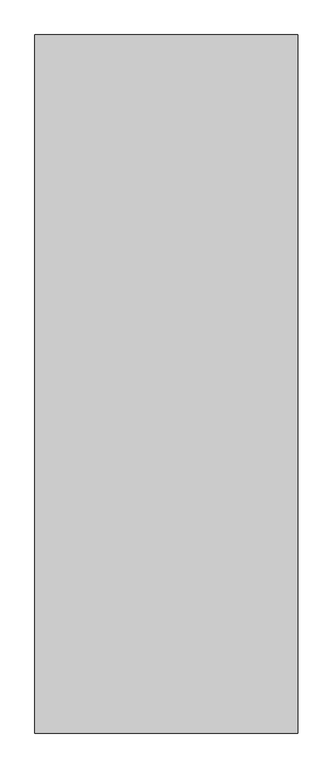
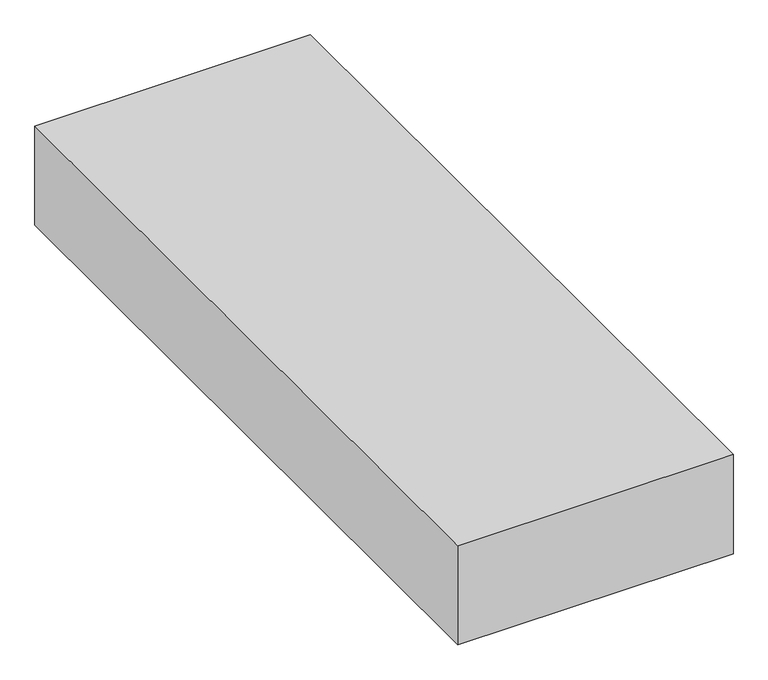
"""IFC4 building model written with IfcOpenShell, lengths in millimetres: proxy geometry, Modelos genéricos - Modelos genéricos 4 - Modelos genéricos 4."""

from ifc_helpers import new_model, si_unit, origin, origin_with_axes, place, context, project, spatial, polyline, outline, extrude, source, transform, mapped, element, save


def generic_models_a8d53121(model_context):
    return source(origin(), model_context, "Body", "SweptSolid", [
        extrude(outline(polyline([(19.0598597, 27899.9962037), (10519.0598597, 27899.9962037), (10519.0598597, 0.0), (19.0598597, 0.0), (19.0598597, 27899.9962037)])), origin_with_axes(), (0.0, 0.0, 1.0), 4000.0),
    ])


if __name__ == "__main__":
    model = new_model("IFC4")
    model_context = context("Model", 3, world=origin())
    ifc_project = project(units=[si_unit("LENGTHUNIT", "METRE", prefix="MILLI")], contexts=[model_context])
    site = spatial("IfcSite", under=ifc_project)
    building = spatial("IfcBuilding", under=site)
    placement = place(None, origin())
    generic_models_shape = generic_models_a8d53121(model_context)
    element("IfcBuildingElementProxy", 1, Name="Modelos genéricos - Modelos genéricos 4 - Modelos genéricos 4", ObjectType="Modelos genéricos - Modelos genéricos 4 - Modelos genéricos 4", at=placement, inside=building, context=model_context, shape_type="MappedRepresentation", body=[
        mapped(generic_models_shape, transform((0.0, 0.0, 0.0), x_axis=(1.0, 0.0, 0.0), y_axis=(0.0, 1.0, 0.0), z_axis=(0.0, 0.0, 1.0))),
    ])
    save(model, "model.ifc")
